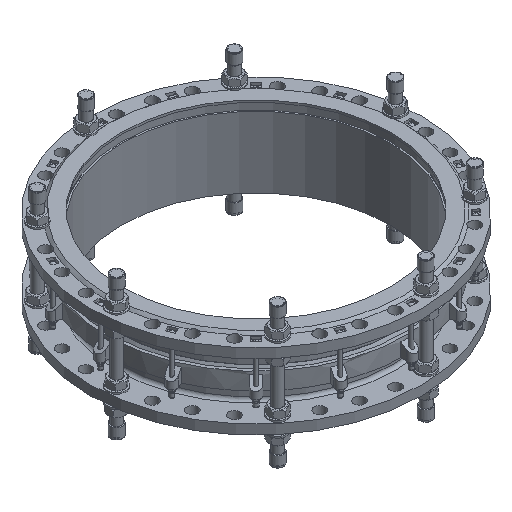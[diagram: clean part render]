
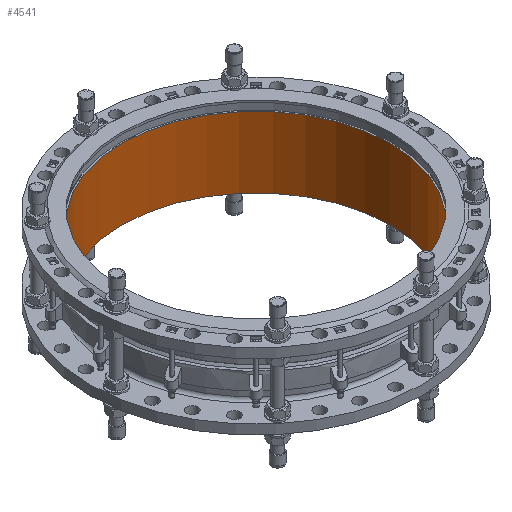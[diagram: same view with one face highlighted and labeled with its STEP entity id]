
A CAD part, isometric view. The second image highlights one B-rep face of the part: STEP entity #4541.
In plain terms, the highlighted cylindrical face has radius 600 mm (diameter 1200 mm), a full revolution.
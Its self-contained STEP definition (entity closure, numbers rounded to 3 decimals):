
#4541=ADVANCED_FACE('',(#5430,#5432),#5434,.F.);
#5430=FACE_OUTER_BOUND('',#5431,.T.);
#5431=EDGE_LOOP('',(#9558));
#5432=FACE_OUTER_BOUND('',#5433,.T.);
#5433=EDGE_LOOP('',(#9559));
#5434=CYLINDRICAL_SURFACE('',#5435,600.);
#5435=AXIS2_PLACEMENT_3D('',#5436,#5437,#5438);
#5436=CARTESIAN_POINT('',(0.,0.,0.));
#5437=DIRECTION('',(0.,0.,1.));
#5438=DIRECTION('',(-1.,0.,0.));
#9558=ORIENTED_EDGE('',*,*,#12493,.F.);
#9559=ORIENTED_EDGE('',*,*,#12494,.F.);
#12493=EDGE_CURVE('',#13876,#13876,#13877,.T.);
#12494=EDGE_CURVE('',#13878,#13878,#13879,.T.);
#13876=VERTEX_POINT('',#16255);
#13877=CIRCLE('',#16256,600.);
#13878=VERTEX_POINT('',#16260);
#13879=CIRCLE('',#16261,600.);
#16255=CARTESIAN_POINT('',(-600.,0.,316.));
#16256=AXIS2_PLACEMENT_3D('',#16257,#16258,#16259);
#16257=CARTESIAN_POINT('',(0.,0.,316.));
#16258=DIRECTION('',(0.,0.,-1.));
#16259=DIRECTION('',(-1.,0.,0.));
#16260=CARTESIAN_POINT('',(-600.,0.,0.));
#16261=AXIS2_PLACEMENT_3D('',#16262,#16263,#16264);
#16262=CARTESIAN_POINT('',(0.,0.,0.));
#16263=DIRECTION('',(0.,0.,1.));
#16264=DIRECTION('',(-1.,0.,0.));
